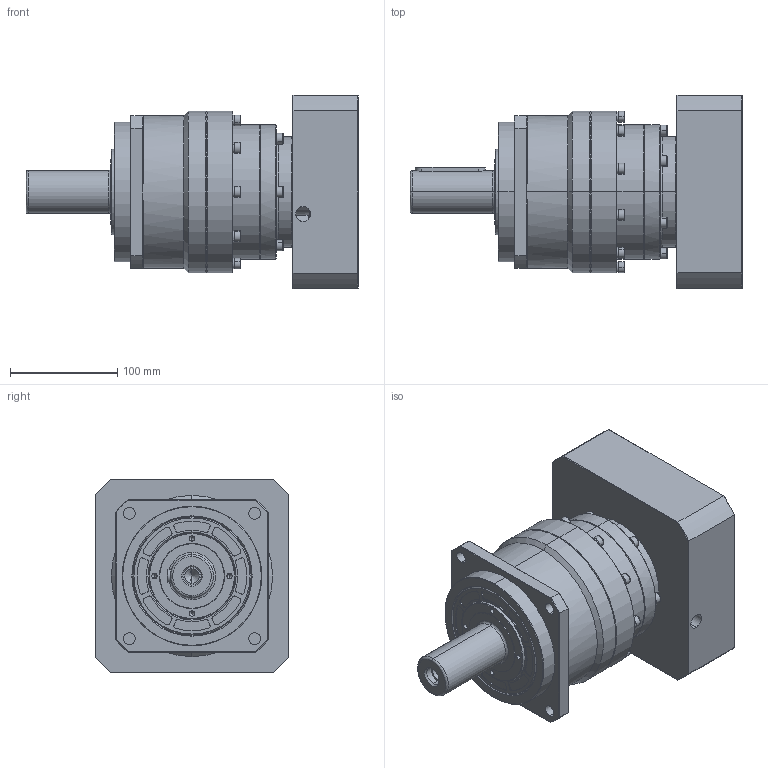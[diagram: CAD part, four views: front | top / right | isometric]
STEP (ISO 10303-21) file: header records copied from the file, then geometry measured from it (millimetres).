
FILE_DESCRIPTION (( 'STEP AP214' ), '1' );
FILE_NAME ('VRB-142-L2-S2-P1 35-114.3-200-M12.STEP', '2023-08-14T04:56:49', ( '微软用户' ), ( '微软中国' ), 'SwSTEP 2.0', 'SolidWorks 2018', '' );
FILE_SCHEMA (( 'AUTOMOTIVE_DESIGN' ));
Length unit declared in the file: millimetre
Products named in the file (11): hexagon socket head cap screws gb_GB_FASTENER_SCREWS_HSHCS M6X20-N; hex socket set screws with flat point gb_GB_FASTENER_SCREWS_HSFP M16X16-N; hexagon socket head cap screws gb_GB_FASTENER_SCREWS_HSHCS M6X35-N; 笢潔楊擘 VRB-115 俋倛芞; 萇儂楊擘 VRB-115 D114.3-M12-200F180H61; VRB-142-L2-S2-P1 35-114.3-200-M12; 一级齿圈加出轴VRB-142外形图; spring lock washers--normal type gb_GB_FASTENER_WASHER_SW 6; 一级整体太阳轮带夹套外形图VRB-115-D35; 二级齿圈VRB-142外形图; hexagon socket head cap screws gb_GB_FASTENER_SCREWS_HSHCS M6X25-N
Assembly tree (50 placements, depth 2):
  VRB-142-L2-S2-P1 35-114.3-200-M12
    一级齿圈加出轴VRB-142外形图
    二级齿圈VRB-142外形图
    笢潔楊擘 VRB-115 俋倛芞
    萇儂楊擘 VRB-115 D114.3-M12-200F180H61
    spring lock washers--normal type gb_GB_FASTENER_WASHER_SW 6  x22
    hexagon socket head cap screws gb_GB_FASTENER_SCREWS_HSHCS M6X35-N  x10
    hexagon socket head cap screws gb_GB_FASTENER_SCREWS_HSHCS M6X25-N  x6
    hexagon socket head cap screws gb_GB_FASTENER_SCREWS_HSHCS M6X20-N  x6
    hex socket set screws with flat point gb_GB_FASTENER_SCREWS_HSFP M16X16-N
    一级整体太阳轮带夹套外形图VRB-115-D35
Bounding box: 309 x 180 x 180 mm (x, y, z)
Volume: 4002629.9 mm3; surface area: 378427.6 mm2
Topology: 51 solids, 51 shells, 1355 faces, 3284 edges, 2031 vertices
Faces by surface type: plane 594, cylinder 483, cone 228, bspline 50
Entity records: 21628 total; most frequent: CARTESIAN_POINT 4516, DIRECTION 3705, ORIENTED_EDGE 3312, EDGE_CURVE 1656, AXIS2_PLACEMENT_3D 1473, VERTEX_POINT 1058, EDGE_LOOP 784, CIRCLE 762
